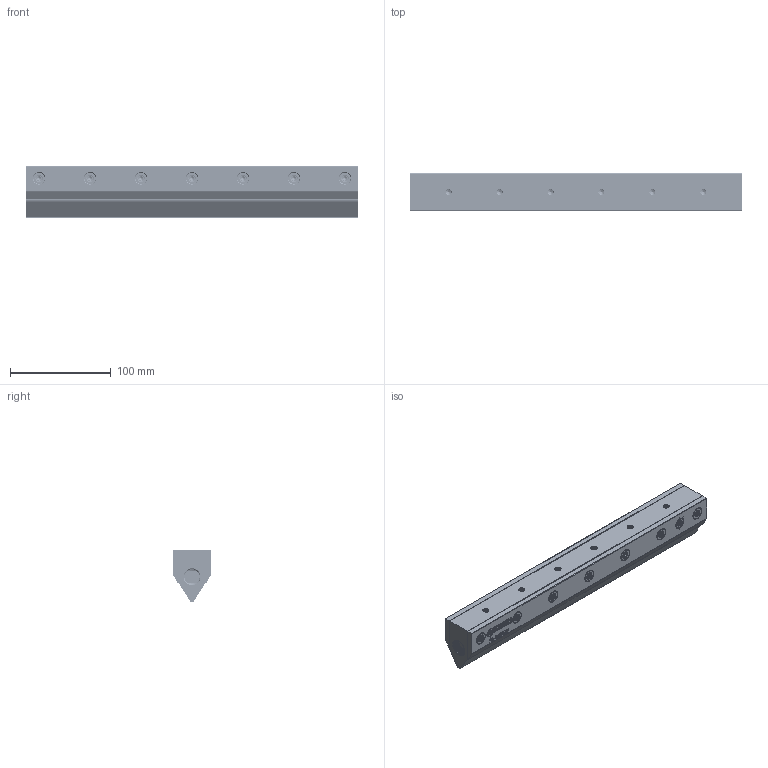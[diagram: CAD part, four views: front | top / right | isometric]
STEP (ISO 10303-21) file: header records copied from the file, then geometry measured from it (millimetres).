
FILE_DESCRIPTION (( 'STEP AP214' ), '1' );
FILE_NAME ('SIMP - RA-2_300_DF.STEP', '2023-07-12T15:11:44', ( '' ), ( '' ), 'SwSTEP 2.0', 'SolidWorks 2021', '' );
FILE_SCHEMA (( 'AUTOMOTIVE_DESIGN' ));
Length unit declared in the file: millimetre
Products named in the file (1): SIMP - RA-2_300_DF
Bounding box: 330 x 37.26 x 51.3 mm (x, y, z)
Volume: 473491.4 mm3; surface area: 73300.4 mm2
Topology: 15 solids, 15 shells, 2361 faces, 6369 edges, 4218 vertices
Faces by surface type: plane 1216, cylinder 536, bspline 479, cone 102, torus 28
Full cylindrical faces by diameter (mm): 5 x79, 6.5 x14, 11.3 x14
Entity records: 178153 total; most frequent: CARTESIAN_POINT 100731, ORIENTED_EDGE 11838, DIRECTION 8911, EDGE_CURVE 5919, VERTEX_POINT 3985, LINE 3539, VECTOR 3539, AXIS2_PLACEMENT_3D 2686
